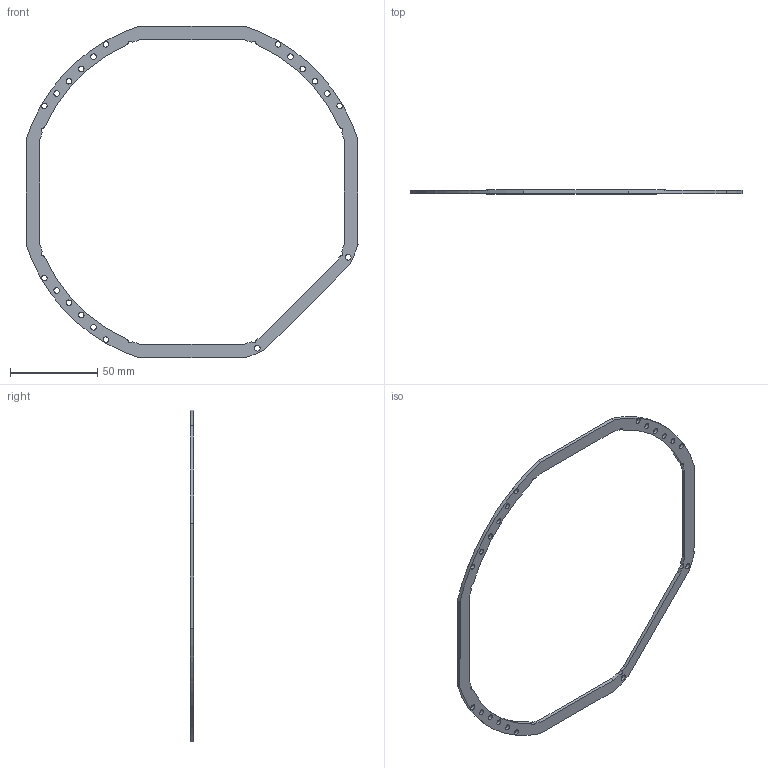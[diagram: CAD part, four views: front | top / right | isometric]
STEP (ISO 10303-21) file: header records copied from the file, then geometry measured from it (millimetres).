
FILE_DESCRIPTION(/* description */ (''),/* implementation_level */ '2;1');
FILE_NAME(/* name */ 'C:/Users/priba/Downloads/mrm-rob-socc-board-a-top.step',/* time_stamp */ '2022-04-03T23:53:30+02:00',/* author */ (''),/* organization */ (''),/* preprocessor_version */ 'ST-DEVELOPER v18.1',/* originating_system */ 'Autodesk Translation Framework v10.13.0.1454',/* authorisation */ '');
FILE_SCHEMA (('AUTOMOTIVE_DESIGN { 1 0 10303 214 3 1 1 }'));
Length unit declared in the file: millimetre
Products named in the file (1): mrm-rob-socc-board-a-top
Bounding box: 190.79 x 2 x 190.79 mm (x, y, z)
Volume: 8642 mm3; surface area: 11458.4 mm2
Topology: 1 solids, 1 shells, 61 faces, 177 edges, 118 vertices
Faces by surface type: cylinder 46, plane 15
Full cylindrical faces by diameter (mm): 3.2 x18, 3.3 x2
Entity records: 2180 total; most frequent: DIRECTION 393, CARTESIAN_POINT 357, ORIENTED_EDGE 354, EDGE_CURVE 177, AXIS2_PLACEMENT_3D 154, VERTEX_POINT 118, EDGE_LOOP 103, CIRCLE 92
